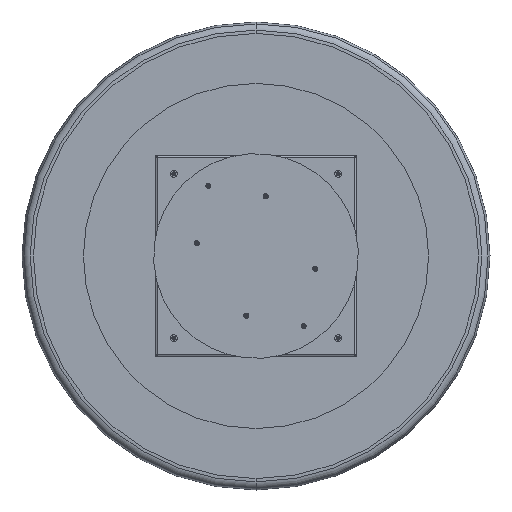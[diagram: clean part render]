
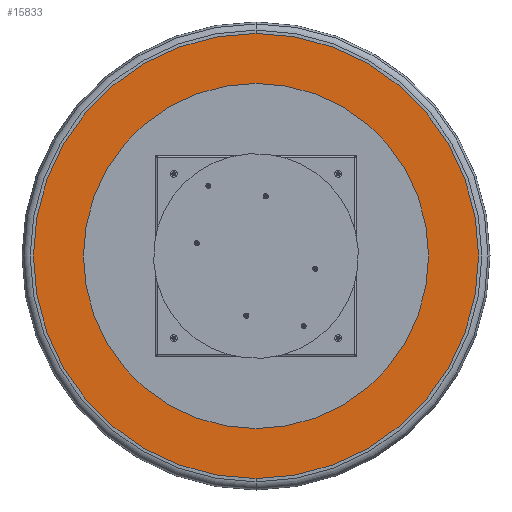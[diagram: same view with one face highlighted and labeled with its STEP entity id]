
A CAD part, front view. The second image highlights one B-rep face of the part: STEP entity #15833.
In plain terms, the highlighted planar face has unit normal (0, -1, 0).
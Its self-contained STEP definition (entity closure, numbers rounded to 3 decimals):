
#155 = ORIENTED_EDGE ( 'NONE', *, *, #5753, .F. ) ;
#850 = DIRECTION ( 'NONE',  ( 0., -1., 0. ) ) ;
#2239 = CARTESIAN_POINT ( 'NONE',  ( 0., -56., 0. ) ) ;
#2722 = VERTEX_POINT ( 'NONE', #3095 ) ;
#3095 = CARTESIAN_POINT ( 'NONE',  ( 0., -56., 761. ) ) ;
#3759 = VERTEX_POINT ( 'NONE', #18721 ) ;
#4089 = CIRCLE ( 'NONE', #9073, 590. ) ;
#4337 = DIRECTION ( 'NONE',  ( 0., 0., -1. ) ) ;
#4380 = VERTEX_POINT ( 'NONE', #12995 ) ;
#4821 = VERTEX_POINT ( 'NONE', #6078 ) ;
#4843 = CIRCLE ( 'NONE', #13750, 761. ) ;
#5753 = EDGE_CURVE ( 'NONE', #4380, #4821, #10025, .T. ) ;
#5755 = CARTESIAN_POINT ( 'NONE',  ( 0., -56., 0. ) ) ;
#6078 = CARTESIAN_POINT ( 'NONE',  ( 0., -56., 590. ) ) ;
#6512 = FACE_OUTER_BOUND ( 'NONE', #20957, .T. ) ;
#7378 = DIRECTION ( 'NONE',  ( 0., 1., 0. ) ) ;
#8273 = PLANE ( 'NONE',  #17671 ) ;
#8879 = AXIS2_PLACEMENT_3D ( 'NONE', #9062, #12664, #15903 ) ;
#9062 = CARTESIAN_POINT ( 'NONE',  ( 0., -56., 0. ) ) ;
#9073 = AXIS2_PLACEMENT_3D ( 'NONE', #5755, #9287, #9514 ) ;
#9287 = DIRECTION ( 'NONE',  ( 0., -1., 0. ) ) ;
#9514 = DIRECTION ( 'NONE',  ( 0., 0., -1. ) ) ;
#10025 = CIRCLE ( 'NONE', #14670, 590. ) ;
#12424 = DIRECTION ( 'NONE',  ( 0., 0., 1. ) ) ;
#12664 = DIRECTION ( 'NONE',  ( 0., 1., 0. ) ) ;
#12995 = CARTESIAN_POINT ( 'NONE',  ( 0., -56., -590. ) ) ;
#13454 = CARTESIAN_POINT ( 'NONE',  ( 0., -56., 761. ) ) ;
#13569 = DIRECTION ( 'NONE',  ( 0., -1., 0. ) ) ;
#13750 = AXIS2_PLACEMENT_3D ( 'NONE', #2239, #7378, #12424 ) ;
#14607 = CARTESIAN_POINT ( 'NONE',  ( 0., -56., 0. ) ) ;
#14670 = AXIS2_PLACEMENT_3D ( 'NONE', #14607, #850, #4337 ) ;
#15151 = ORIENTED_EDGE ( 'NONE', *, *, #21784, .F. ) ;
#15329 = CIRCLE ( 'NONE', #8879, 761. ) ;
#15438 = EDGE_CURVE ( 'NONE', #2722, #3759, #4843, .T. ) ;
#15833 = ADVANCED_FACE ( 'NONE', ( #20247, #6512 ), #8273, .T. ) ;
#15903 = DIRECTION ( 'NONE',  ( 0., 0., 1. ) ) ;
#17671 = AXIS2_PLACEMENT_3D ( 'NONE', #13454, #13569, #22032 ) ;
#18678 = ORIENTED_EDGE ( 'NONE', *, *, #20538, .F. ) ;
#18721 = CARTESIAN_POINT ( 'NONE',  ( 0., -56., -761. ) ) ;
#19206 = ORIENTED_EDGE ( 'NONE', *, *, #15438, .F. ) ;
#19608 = EDGE_LOOP ( 'NONE', ( #155, #15151 ) ) ;
#20247 = FACE_BOUND ( 'NONE', #19608, .T. ) ;
#20538 = EDGE_CURVE ( 'NONE', #3759, #2722, #15329, .T. ) ;
#20957 = EDGE_LOOP ( 'NONE', ( #19206, #18678 ) ) ;
#21784 = EDGE_CURVE ( 'NONE', #4821, #4380, #4089, .T. ) ;
#22032 = DIRECTION ( 'NONE',  ( 0., 0., -1. ) ) ;
